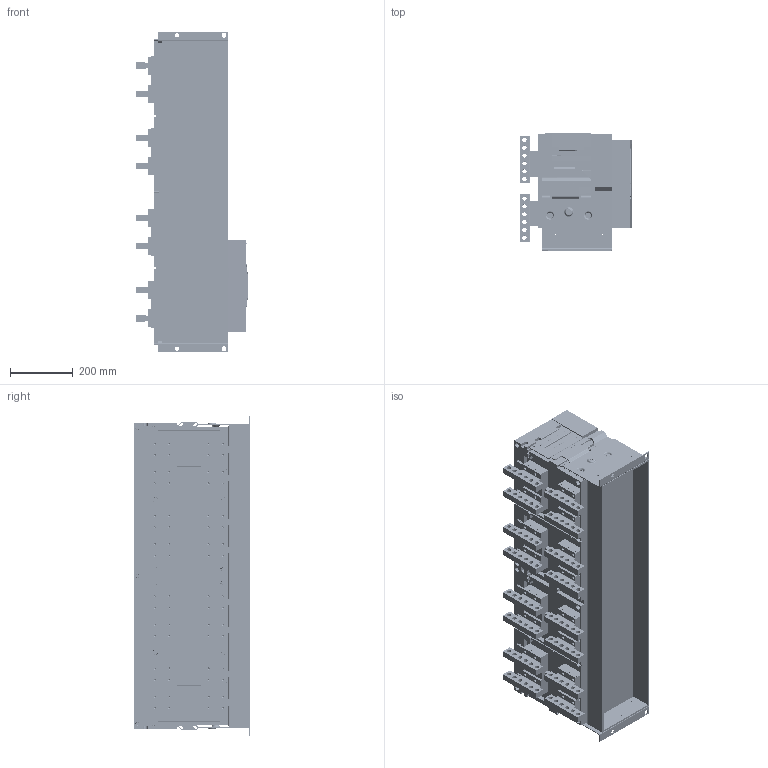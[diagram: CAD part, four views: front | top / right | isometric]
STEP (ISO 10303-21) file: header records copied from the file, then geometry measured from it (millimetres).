
FILE_DESCRIPTION (( 'STEP AP214' ), '1' );
FILE_NAME ('OptiMat A-S6-B-6300-4P-F-V.STEP', '2025-02-10T10:09:45', ( '' ), ( '' ), 'SwSTEP 2.0', 'SolidWorks 2018', '' );
FILE_SCHEMA (( 'AUTOMOTIVE_DESIGN' ));
Length unit declared in the file: millimetre
Products named in the file (1): OptiMat A-S6-B-6300-4P-F-V
Bounding box: 358.81 x 371.55 x 1022 mm (x, y, z)
Volume: 75602084.2 mm3; surface area: 3504269.5 mm2
Topology: 3 solids, 69 shells, 6620 faces, 16919 edges, 10748 vertices
Faces by surface type: plane 2990, cylinder 2365, cone 610, torus 328, bspline 271, sphere 56
Entity records: 292283 total; most frequent: CARTESIAN_POINT 61799, DIRECTION 33696, ORIENTED_EDGE 33508, EDGE_CURVE 16754, AXIS2_PLACEMENT_3D 12107, VERTEX_POINT 10742, VECTOR 9482, LINE 9482
